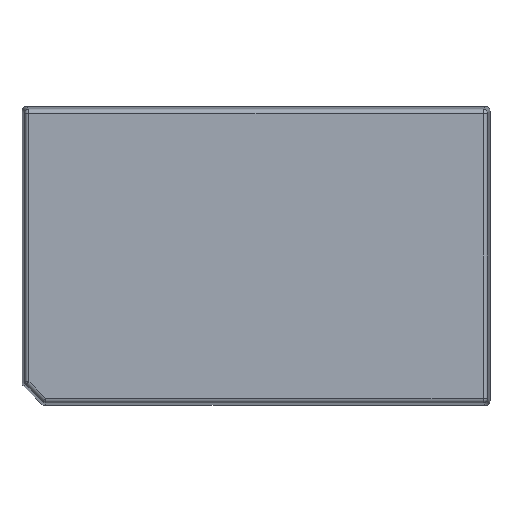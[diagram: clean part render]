
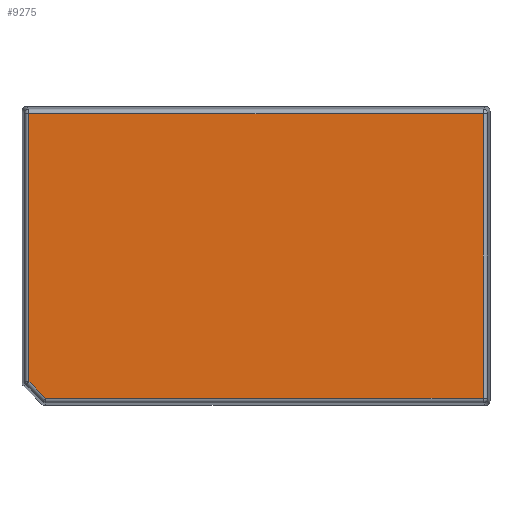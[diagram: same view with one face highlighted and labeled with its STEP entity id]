
A CAD part, front view. The second image highlights one B-rep face of the part: STEP entity #9275.
In plain terms, the highlighted planar face has unit normal (0, -1, 0).
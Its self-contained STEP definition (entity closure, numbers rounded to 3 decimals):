
#188 = VECTOR ( 'NONE', #3134, 1000. ) ;
#262 = LINE ( 'NONE', #8552, #4285 ) ;
#489 = DIRECTION ( 'NONE',  ( 0., 0., -1. ) ) ;
#552 = AXIS2_PLACEMENT_3D ( 'NONE', #5740, #1277, #6439 ) ;
#734 = CARTESIAN_POINT ( 'NONE',  ( 1.181, -10.2, 12.814 ) ) ;
#938 = DIRECTION ( 'NONE',  ( -1., 0., 0. ) ) ;
#1277 = DIRECTION ( 'NONE',  ( 0., -1., 0. ) ) ;
#1593 = LINE ( 'NONE', #9307, #5334 ) ;
#1873 = VERTEX_POINT ( 'NONE', #6333 ) ;
#2183 = EDGE_CURVE ( 'NONE', #5356, #4564, #2443, .T. ) ;
#2443 = LINE ( 'NONE', #3182, #188 ) ;
#2740 = CARTESIAN_POINT ( 'NONE',  ( 1.181, -10.2, -6.54 ) ) ;
#2809 = EDGE_CURVE ( 'NONE', #6454, #1873, #9262, .T. ) ;
#3134 = DIRECTION ( 'NONE',  ( 1., 0., 0. ) ) ;
#3136 = EDGE_CURVE ( 'NONE', #1873, #7477, #1593, .T. ) ;
#3182 = CARTESIAN_POINT ( 'NONE',  ( 1.476, -10.2, -6.54 ) ) ;
#3484 = VECTOR ( 'NONE', #938, 1000. ) ;
#3514 = ORIENTED_EDGE ( 'NONE', *, *, #9396, .T. ) ;
#3720 = CARTESIAN_POINT ( 'NONE',  ( -28.45, -10.2, -6.627 ) ) ;
#3761 = ORIENTED_EDGE ( 'NONE', *, *, #4019, .T. ) ;
#4019 = EDGE_CURVE ( 'NONE', #4564, #6454, #262, .T. ) ;
#4086 = VECTOR ( 'NONE', #8041, 1000. ) ;
#4285 = VECTOR ( 'NONE', #4978, 1000. ) ;
#4564 = VERTEX_POINT ( 'NONE', #2740 ) ;
#4978 = DIRECTION ( 'NONE',  ( 0., 0., 1. ) ) ;
#5013 = LINE ( 'NONE', #3720, #4086 ) ;
#5334 = VECTOR ( 'NONE', #489, 1000. ) ;
#5356 = VERTEX_POINT ( 'NONE', #6270 ) ;
#5368 = EDGE_LOOP ( 'NONE', ( #3514, #6942, #3761, #8273, #6840 ) ) ;
#5740 = CARTESIAN_POINT ( 'NONE',  ( 0., -10.2, 0. ) ) ;
#6060 = CARTESIAN_POINT ( 'NONE',  ( -29.968, -10.2, 12.814 ) ) ;
#6270 = CARTESIAN_POINT ( 'NONE',  ( -28.536, -10.2, -6.54 ) ) ;
#6333 = CARTESIAN_POINT ( 'NONE',  ( -29.673, -10.2, 12.814 ) ) ;
#6342 = FACE_OUTER_BOUND ( 'NONE', #5368, .T. ) ;
#6439 = DIRECTION ( 'NONE',  ( 0., 0., -1. ) ) ;
#6454 = VERTEX_POINT ( 'NONE', #734 ) ;
#6840 = ORIENTED_EDGE ( 'NONE', *, *, #3136, .T. ) ;
#6942 = ORIENTED_EDGE ( 'NONE', *, *, #2183, .T. ) ;
#7477 = VERTEX_POINT ( 'NONE', #8832 ) ;
#7767 = PLANE ( 'NONE',  #552 ) ;
#8041 = DIRECTION ( 'NONE',  ( 0.707, 0., -0.707 ) ) ;
#8273 = ORIENTED_EDGE ( 'NONE', *, *, #2809, .T. ) ;
#8552 = CARTESIAN_POINT ( 'NONE',  ( 1.181, -10.2, 13.109 ) ) ;
#8832 = CARTESIAN_POINT ( 'NONE',  ( -29.673, -10.2, -5.403 ) ) ;
#9262 = LINE ( 'NONE', #6060, #3484 ) ;
#9275 = ADVANCED_FACE ( 'NONE', ( #6342 ), #7767, .T. ) ;
#9307 = CARTESIAN_POINT ( 'NONE',  ( -29.673, -10.2, -5.525 ) ) ;
#9396 = EDGE_CURVE ( 'NONE', #7477, #5356, #5013, .T. ) ;
